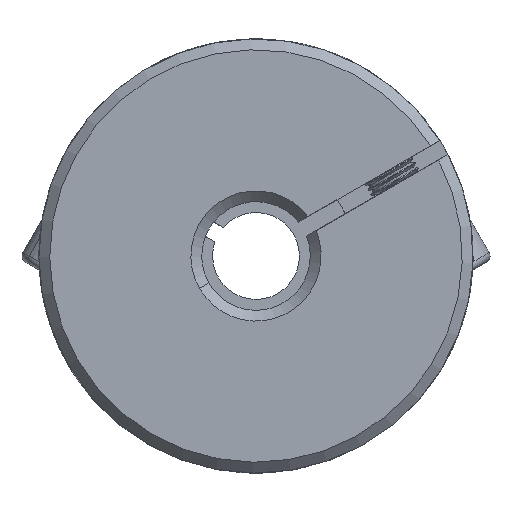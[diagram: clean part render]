
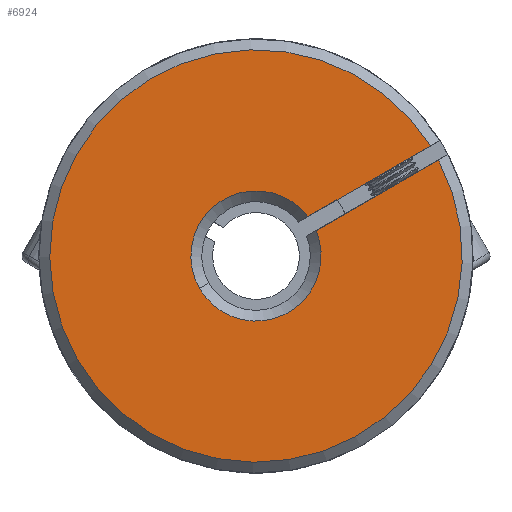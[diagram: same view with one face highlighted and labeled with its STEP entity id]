
A CAD part, front view. The second image highlights one B-rep face of the part: STEP entity #6924.
In plain terms, the highlighted planar face has unit normal (0, -1, 0).
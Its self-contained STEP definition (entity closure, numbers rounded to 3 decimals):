
#48 = VERTEX_POINT ( 'NONE', #11760 ) ;
#364 = LINE ( 'NONE', #4108, #11516 ) ;
#458 = ORIENTED_EDGE ( 'NONE', *, *, #9589, .F. ) ;
#1348 = VERTEX_POINT ( 'NONE', #13007 ) ;
#2273 = AXIS2_PLACEMENT_3D ( 'NONE', #3591, #5801, #12312 ) ;
#2504 = DIRECTION ( 'NONE',  ( 0., -1., 0. ) ) ;
#2557 = FACE_OUTER_BOUND ( 'NONE', #6833, .T. ) ;
#2913 = CARTESIAN_POINT ( 'NONE',  ( -1.447, -31.239, 40. ) ) ;
#3040 = CARTESIAN_POINT ( 'NONE',  ( 3.209, -31.239, 41.824 ) ) ;
#3168 = CARTESIAN_POINT ( 'NONE',  ( 3.332, -31.239, 43.628 ) ) ;
#3591 = CARTESIAN_POINT ( 'NONE',  ( -1.447, -31.239, 40. ) ) ;
#4067 = VERTEX_POINT ( 'NONE', #6590 ) ;
#4108 = CARTESIAN_POINT ( 'NONE',  ( 2.458, -31.239, 43.122 ) ) ;
#5264 = DIRECTION ( 'NONE',  ( 0., 1., 0. ) ) ;
#5332 = LINE ( 'NONE', #3040, #9068 ) ;
#5462 = CARTESIAN_POINT ( 'NONE',  ( -6.642, -31.239, 36.998 ) ) ;
#5542 = AXIS2_PLACEMENT_3D ( 'NONE', #6273, #5264, #11833 ) ;
#5801 = DIRECTION ( 'NONE',  ( 0., 1., 0. ) ) ;
#6128 = ORIENTED_EDGE ( 'NONE', *, *, #12786, .T. ) ;
#6261 = AXIS2_PLACEMENT_3D ( 'NONE', #7916, #2504, #10058 ) ;
#6273 = CARTESIAN_POINT ( 'NONE',  ( 52.98, -31.239, 45.743 ) ) ;
#6494 = EDGE_CURVE ( 'NONE', #4067, #9540, #364, .T. ) ;
#6590 = CARTESIAN_POINT ( 'NONE',  ( 14.616, -31.239, 50.147 ) ) ;
#6833 = EDGE_LOOP ( 'NONE', ( #458, #6128, #7449, #12065, #11885 ) ) ;
#6924 = ADVANCED_FACE ( 'NONE', ( #2557 ), #8362, .F. ) ;
#7449 = ORIENTED_EDGE ( 'NONE', *, *, #11903, .T. ) ;
#7916 = CARTESIAN_POINT ( 'NONE',  ( -1.447, -31.239, 40. ) ) ;
#8071 = CIRCLE ( 'NONE', #8322, 6. ) ;
#8076 = CIRCLE ( 'NONE', #2273, 6. ) ;
#8322 = AXIS2_PLACEMENT_3D ( 'NONE', #2913, #9366, #10392 ) ;
#8340 = DIRECTION ( 'NONE',  ( 0.866, 0., 0.5 ) ) ;
#8362 = PLANE ( 'NONE',  #5542 ) ;
#9068 = VECTOR ( 'NONE', #8340, 1000. ) ;
#9366 = DIRECTION ( 'NONE',  ( 0., 1., 0. ) ) ;
#9540 = VERTEX_POINT ( 'NONE', #3168 ) ;
#9589 = EDGE_CURVE ( 'NONE', #1348, #48, #5332, .T. ) ;
#10058 = DIRECTION ( 'NONE',  ( 0.5, 0., -0.866 ) ) ;
#10168 = VERTEX_POINT ( 'NONE', #5462 ) ;
#10392 = DIRECTION ( 'NONE',  ( 0.5, 0., -0.866 ) ) ;
#10771 = EDGE_CURVE ( 'NONE', #4067, #48, #11328, .T. ) ;
#11328 = CIRCLE ( 'NONE', #6261, 19. ) ;
#11516 = VECTOR ( 'NONE', #13010, 1000. ) ;
#11760 = CARTESIAN_POINT ( 'NONE',  ( 15.367, -31.239, 48.848 ) ) ;
#11833 = DIRECTION ( 'NONE',  ( 0.5, 0., -0.866 ) ) ;
#11885 = ORIENTED_EDGE ( 'NONE', *, *, #10771, .T. ) ;
#11903 = EDGE_CURVE ( 'NONE', #10168, #9540, #8071, .T. ) ;
#12065 = ORIENTED_EDGE ( 'NONE', *, *, #6494, .F. ) ;
#12312 = DIRECTION ( 'NONE',  ( 0.5, 0., -0.866 ) ) ;
#12786 = EDGE_CURVE ( 'NONE', #1348, #10168, #8076, .T. ) ;
#13007 = CARTESIAN_POINT ( 'NONE',  ( 4.083, -31.239, 42.329 ) ) ;
#13010 = DIRECTION ( 'NONE',  ( -0.866, 0., -0.5 ) ) ;
